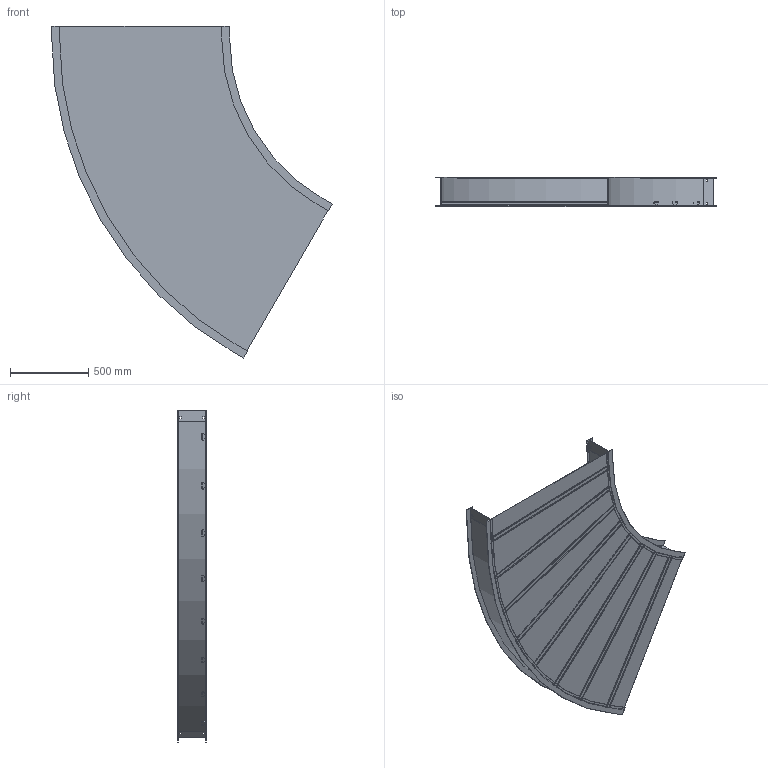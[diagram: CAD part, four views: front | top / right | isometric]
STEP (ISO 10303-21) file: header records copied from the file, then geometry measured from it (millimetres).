
FILE_DESCRIPTION((''),'2;1');
FILE_NAME('AHF742SHB6048_ASM','2010-01-28T',('erouzier'),(''),'PRO/ENGINEER BY PARAMETRIC TECHNOLOGY CORPORATION, 2008510','PRO/ENGINEER BY PARAMETRIC TECHNOLOGY CORPORATION, 2008510','');
FILE_SCHEMA(('CONFIG_CONTROL_DESIGN'));
Length unit declared in the file: inch
Products named in the file (5): CDS001813-7-60-48-I; CDS001813-7-60-90-O; CDS002159L42; ED04588-42-48-60; AHF742SHB6048_ASM
Assembly tree (11 placements, depth 2):
  AHF742SHB6048_ASM
    CDS001813-7-60-48-I
    CDS001813-7-60-90-O
    CDS002159L42  x8
    ED04588-42-48-60
Bounding box: 1798.27 x 183.9 x 2127.47 mm (x, y, z)
Volume: 6264502.7 mm3; surface area: 8496881.2 mm2
Topology: 11 solids, 11 shells, 334 faces, 936 edges, 624 vertices
Faces by surface type: plane 232, cylinder 102
Entity records: 4189 total; most frequent: CARTESIAN_POINT 720, ORIENTED_EDGE 696, DIRECTION 678, EDGE_CURVE 348, VECTOR 298, LINE 298, VERTEX_POINT 232, AXIS2_PLACEMENT_3D 190
